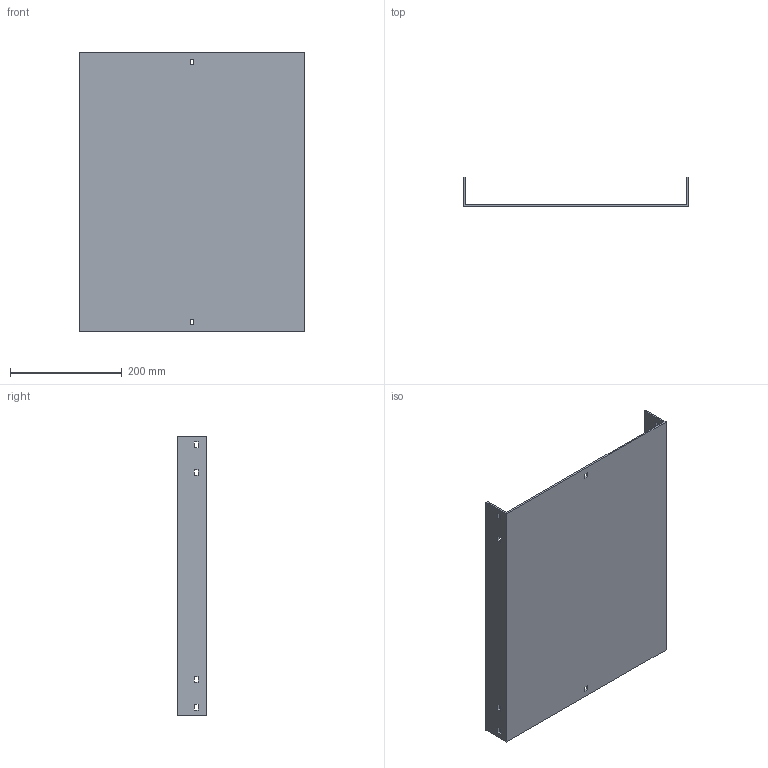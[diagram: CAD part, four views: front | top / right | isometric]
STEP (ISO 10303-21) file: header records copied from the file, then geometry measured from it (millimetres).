
FILE_DESCRIPTION (( 'STEP AP214' ), '1' );
FILE_NAME ('03F7B400.step', '2025-02-21T13:24:52', ( '' ), ( '' ), 'SwSTEP 2.0', 'SolidWorks 2023', '' );
FILE_SCHEMA (( 'AUTOMOTIVE_DESIGN' ));
Length unit declared in the file: millimetre
Products named in the file (1): 03F7B400
Bounding box: 404 x 52 x 500 mm (x, y, z)
Volume: 874380.5 mm3; surface area: 507822 mm2
Topology: 1 solids, 1 shells, 50 faces, 144 edges, 96 vertices
Faces by surface type: plane 50
Entity records: 1671 total; most frequent: CARTESIAN_POINT 291, ORIENTED_EDGE 288, DIRECTION 246, VECTOR 144, EDGE_CURVE 144, LINE 144, VERTEX_POINT 96, EDGE_LOOP 70
